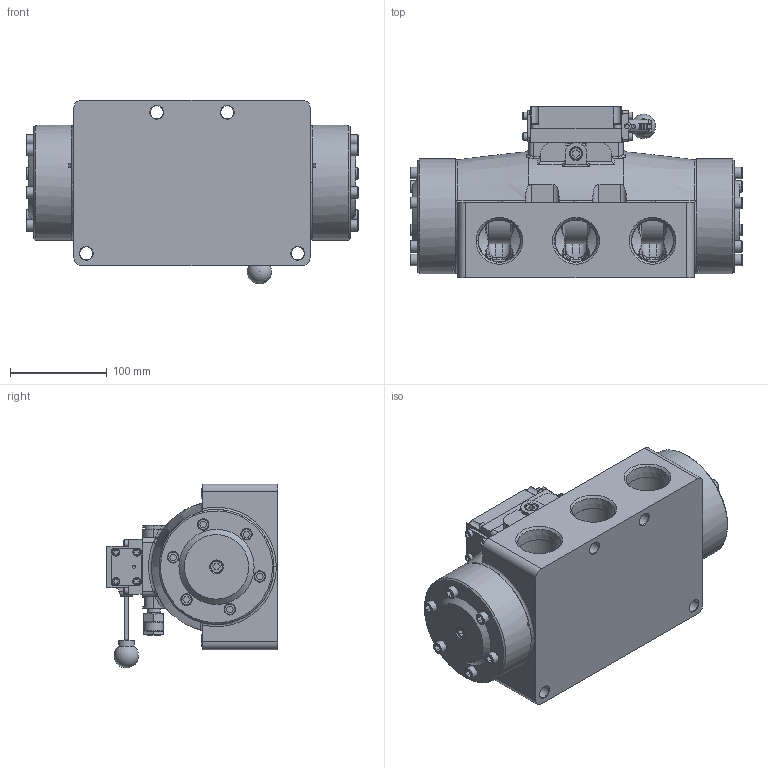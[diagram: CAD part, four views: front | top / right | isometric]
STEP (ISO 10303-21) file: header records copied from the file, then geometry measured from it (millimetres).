
FILE_DESCRIPTION(/* description */ (''),/* implementation_level */ '2;1');
FILE_NAME(/* name */ 'D:\Website Files\stp\Valves\Lever\HD\HD12R.stp',/* time_stamp */ '2015-09-06T23:40:28-04:00',/* author */ ('RMcKenna'),/* organization */ (''),/* preprocessor_version */ 'ST-DEVELOPER v15.6',/* originating_system */ 'Autodesk Inventor 2015',/* authorisation */ '');
FILE_SCHEMA (('AUTOMOTIVE_DESIGN { 1 0 10303 214 3 1 1 }'));
Products named in the file (1): Part53
Bounding box: 343.84 x 177.77 x 190.33 mm (x, y, z)
Volume: 4329474.1 mm3; surface area: 546817.9 mm2
Topology: 3 solids, 61 shells, 2484 faces, 6086 edges, 3914 vertices
Faces by surface type: plane 1088, cylinder 468, cone 465, torus 250, bspline 210, sphere 3
Full cylindrical faces by diameter (mm): 2.261 x2, 2.778 x2, 3.175 x11, 3.683 x12, 3.861 x2, 4.366 x2, 4.369 x3, 4.75 x2, 4.762 x2, 4.763 x7, 4.826 x12, 4.978 x6, 5.055 x1, 5.156 x8, 5.159 x4, 5.944 x2, 6.35 x1, 6.401 x12, 6.731 x2, 7.798 x1, 7.925 x2, 7.938 x38, 8.153 x1, 8.731 x12, 9.525 x5, 9.922 x1, 10.719 x5, 11.113 x2, 11.303 x2, 11.906 x12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
Entity records: 82034 total; most frequent: CARTESIAN_POINT 26073, ORIENTED_EDGE 10658, DIRECTION 10524, EDGE_CURVE 5328, AXIS2_PLACEMENT_3D 4065, VERTEX_POINT 3682, EDGE_LOOP 3297, ADVANCED_FACE 2484
